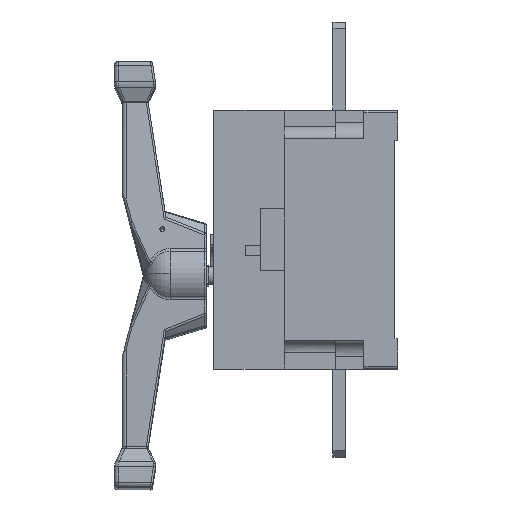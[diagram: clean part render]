
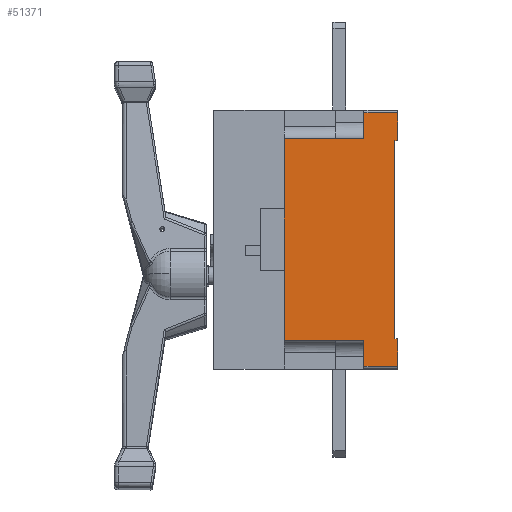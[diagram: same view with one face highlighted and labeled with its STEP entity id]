
A CAD part, left-side view. The second image highlights one B-rep face of the part: STEP entity #51371.
In plain terms, the highlighted planar face has unit normal (-1, 0, 0).
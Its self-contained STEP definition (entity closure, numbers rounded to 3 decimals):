
#843 = DIRECTION ( 'NONE',  ( 1., 0., 0. ) ) ;
#995 = DIRECTION ( 'NONE',  ( 0., 1., 0. ) ) ;
#1050 = LINE ( 'NONE', #15977, #7411 ) ;
#1329 = LINE ( 'NONE', #21159, #49910 ) ;
#2612 = CARTESIAN_POINT ( 'NONE',  ( -246.5, 46., 78. ) ) ;
#2715 = CARTESIAN_POINT ( 'NONE',  ( -246.5, -2., 98. ) ) ;
#3157 = DIRECTION ( 'NONE',  ( 0., 0., -1. ) ) ;
#3804 = CARTESIAN_POINT ( 'NONE',  ( -246.5, -2., 100. ) ) ;
#4415 = CARTESIAN_POINT ( 'NONE',  ( -246.5, 0., 76.5 ) ) ;
#4533 = LINE ( 'NONE', #58755, #9046 ) ;
#4962 = VECTOR ( 'NONE', #42832, 1000. ) ;
#5003 = ORIENTED_EDGE ( 'NONE', *, *, #33485, .T. ) ;
#6173 = VERTEX_POINT ( 'NONE', #64048 ) ;
#6449 = VECTOR ( 'NONE', #23094, 1000. ) ;
#6484 = DIRECTION ( 'NONE',  ( 0., 0., 1. ) ) ;
#7128 = CARTESIAN_POINT ( 'NONE',  ( -246.5, 85.5, -100. ) ) ;
#7411 = VECTOR ( 'NONE', #25104, 1000. ) ;
#7813 = CARTESIAN_POINT ( 'NONE',  ( -246.5, 24., 78.3 ) ) ;
#7830 = CARTESIAN_POINT ( 'NONE',  ( -246.5, -2., -76.5 ) ) ;
#9046 = VECTOR ( 'NONE', #13970, 1000. ) ;
#10089 = LINE ( 'NONE', #44842, #29986 ) ;
#10208 = ORIENTED_EDGE ( 'NONE', *, *, #58534, .F. ) ;
#10784 = ORIENTED_EDGE ( 'NONE', *, *, #47945, .T. ) ;
#11878 = VERTEX_POINT ( 'NONE', #38295 ) ;
#12287 = EDGE_CURVE ( 'NONE', #18549, #48576, #62236, .T. ) ;
#12348 = VERTEX_POINT ( 'NONE', #4415 ) ;
#12698 = EDGE_CURVE ( 'NONE', #53659, #61783, #35100, .T. ) ;
#13970 = DIRECTION ( 'NONE',  ( 0., 0., 1. ) ) ;
#14929 = CARTESIAN_POINT ( 'NONE',  ( -246.5, 46., 78.3 ) ) ;
#15232 = CARTESIAN_POINT ( 'NONE',  ( -246.5, 85.5, 78. ) ) ;
#15977 = CARTESIAN_POINT ( 'NONE',  ( -246.5, 46., -78. ) ) ;
#17671 = DIRECTION ( 'NONE',  ( 0., 0., 1. ) ) ;
#17892 = CARTESIAN_POINT ( 'NONE',  ( -246.5, 46., 78. ) ) ;
#18549 = VERTEX_POINT ( 'NONE', #7830 ) ;
#21159 = CARTESIAN_POINT ( 'NONE',  ( -246.5, -2., 76.5 ) ) ;
#22476 = EDGE_LOOP ( 'NONE', ( #57555, #30240, #51619, #50965, #23243, #29082, #63635, #34277, #43693, #45929, #10208, #42929, #5003, #26833, #10784, #57953 ) ) ;
#22780 = LINE ( 'NONE', #7813, #6449 ) ;
#22891 = CARTESIAN_POINT ( 'NONE',  ( -246.5, 24., -98. ) ) ;
#23016 = LINE ( 'NONE', #52537, #29897 ) ;
#23094 = DIRECTION ( 'NONE',  ( 0., 1., 0. ) ) ;
#23243 = ORIENTED_EDGE ( 'NONE', *, *, #12698, .F. ) ;
#24711 = DIRECTION ( 'NONE',  ( 0., 1., 0. ) ) ;
#24826 = VERTEX_POINT ( 'NONE', #22891 ) ;
#24934 = EDGE_CURVE ( 'NONE', #24826, #53659, #31040, .T. ) ;
#25104 = DIRECTION ( 'NONE',  ( 0., 1., 0. ) ) ;
#26813 = CARTESIAN_POINT ( 'NONE',  ( -246.5, 24., -100. ) ) ;
#26833 = ORIENTED_EDGE ( 'NONE', *, *, #27128, .F. ) ;
#27128 = EDGE_CURVE ( 'NONE', #56192, #52556, #40567, .T. ) ;
#27295 = EDGE_CURVE ( 'NONE', #28931, #11878, #48301, .T. ) ;
#27646 = LINE ( 'NONE', #17892, #45911 ) ;
#27953 = VERTEX_POINT ( 'NONE', #2612 ) ;
#28019 = VECTOR ( 'NONE', #57077, 1000. ) ;
#28931 = VERTEX_POINT ( 'NONE', #2715 ) ;
#29082 = ORIENTED_EDGE ( 'NONE', *, *, #24934, .F. ) ;
#29231 = EDGE_CURVE ( 'NONE', #34339, #56595, #1050, .T. ) ;
#29586 = VECTOR ( 'NONE', #3157, 1000. ) ;
#29667 = AXIS2_PLACEMENT_3D ( 'NONE', #40482, #843, #59917 ) ;
#29897 = VECTOR ( 'NONE', #53498, 1000. ) ;
#29986 = VECTOR ( 'NONE', #54249, 1000. ) ;
#30240 = ORIENTED_EDGE ( 'NONE', *, *, #30879, .F. ) ;
#30879 = EDGE_CURVE ( 'NONE', #56595, #59943, #50976, .T. ) ;
#31040 = LINE ( 'NONE', #26813, #61526 ) ;
#31334 = LINE ( 'NONE', #37138, #50287 ) ;
#33395 = CARTESIAN_POINT ( 'NONE',  ( -246.5, -2., -98. ) ) ;
#33485 = EDGE_CURVE ( 'NONE', #28931, #52556, #47381, .T. ) ;
#34277 = ORIENTED_EDGE ( 'NONE', *, *, #12287, .F. ) ;
#34339 = VERTEX_POINT ( 'NONE', #44839 ) ;
#34455 = CARTESIAN_POINT ( 'NONE',  ( -246.5, 46., -78.3 ) ) ;
#35100 = LINE ( 'NONE', #54903, #60697 ) ;
#36236 = CARTESIAN_POINT ( 'NONE',  ( -246.5, 24., 98. ) ) ;
#36533 = DIRECTION ( 'NONE',  ( 0., 0., 1. ) ) ;
#37138 = CARTESIAN_POINT ( 'NONE',  ( -246.5, 0., -100. ) ) ;
#38295 = CARTESIAN_POINT ( 'NONE',  ( -246.5, -2., 76.5 ) ) ;
#38492 = EDGE_CURVE ( 'NONE', #27953, #49393, #4533, .T. ) ;
#39651 = CARTESIAN_POINT ( 'NONE',  ( -246.5, -2., -76.5 ) ) ;
#40148 = FACE_OUTER_BOUND ( 'NONE', #22476, .T. ) ;
#40427 = VECTOR ( 'NONE', #61300, 1000. ) ;
#40482 = CARTESIAN_POINT ( 'NONE',  ( -246.5, 85.5, -100. ) ) ;
#40567 = LINE ( 'NONE', #56118, #40427 ) ;
#42619 = EDGE_CURVE ( 'NONE', #61783, #34339, #10089, .T. ) ;
#42832 = DIRECTION ( 'NONE',  ( 0., 1., 0. ) ) ;
#42929 = ORIENTED_EDGE ( 'NONE', *, *, #27295, .F. ) ;
#43693 = ORIENTED_EDGE ( 'NONE', *, *, #61749, .T. ) ;
#44470 = CARTESIAN_POINT ( 'NONE',  ( -246.5, 24., -78.3 ) ) ;
#44839 = CARTESIAN_POINT ( 'NONE',  ( -246.5, 46., -78. ) ) ;
#44842 = CARTESIAN_POINT ( 'NONE',  ( -246.5, 46., -100. ) ) ;
#45911 = VECTOR ( 'NONE', #47443, 1000. ) ;
#45929 = ORIENTED_EDGE ( 'NONE', *, *, #49246, .T. ) ;
#47381 = LINE ( 'NONE', #48023, #4962 ) ;
#47443 = DIRECTION ( 'NONE',  ( 0., 1., 0. ) ) ;
#47945 = EDGE_CURVE ( 'NONE', #56192, #49393, #22780, .T. ) ;
#47974 = EDGE_CURVE ( 'NONE', #27953, #59943, #27646, .T. ) ;
#48023 = CARTESIAN_POINT ( 'NONE',  ( -246.5, 46., 98. ) ) ;
#48301 = LINE ( 'NONE', #3804, #28019 ) ;
#48576 = VERTEX_POINT ( 'NONE', #33395 ) ;
#49246 = EDGE_CURVE ( 'NONE', #6173, #12348, #31334, .T. ) ;
#49259 = DIRECTION ( 'NONE',  ( 0., 1., 0. ) ) ;
#49393 = VERTEX_POINT ( 'NONE', #14929 ) ;
#49910 = VECTOR ( 'NONE', #49259, 1000. ) ;
#50019 = LINE ( 'NONE', #39651, #58088 ) ;
#50287 = VECTOR ( 'NONE', #17671, 1000. ) ;
#50965 = ORIENTED_EDGE ( 'NONE', *, *, #42619, .F. ) ;
#50976 = LINE ( 'NONE', #7128, #61809 ) ;
#51371 = ADVANCED_FACE ( 'NONE', ( #40148 ), #55709, .F. ) ;
#51619 = ORIENTED_EDGE ( 'NONE', *, *, #29231, .F. ) ;
#52537 = CARTESIAN_POINT ( 'NONE',  ( -246.5, 46., -98. ) ) ;
#52556 = VERTEX_POINT ( 'NONE', #36236 ) ;
#52913 = CARTESIAN_POINT ( 'NONE',  ( -246.5, 24., 78.3 ) ) ;
#53150 = CARTESIAN_POINT ( 'NONE',  ( -246.5, 85.5, -78. ) ) ;
#53498 = DIRECTION ( 'NONE',  ( 0., -1., 0. ) ) ;
#53659 = VERTEX_POINT ( 'NONE', #44470 ) ;
#53853 = EDGE_CURVE ( 'NONE', #24826, #48576, #23016, .T. ) ;
#54249 = DIRECTION ( 'NONE',  ( 0., 0., 1. ) ) ;
#54903 = CARTESIAN_POINT ( 'NONE',  ( -246.5, 24., -78.3 ) ) ;
#55709 = PLANE ( 'NONE',  #29667 ) ;
#56118 = CARTESIAN_POINT ( 'NONE',  ( -246.5, 24., 100. ) ) ;
#56192 = VERTEX_POINT ( 'NONE', #52913 ) ;
#56595 = VERTEX_POINT ( 'NONE', #53150 ) ;
#57077 = DIRECTION ( 'NONE',  ( 0., 0., -1. ) ) ;
#57555 = ORIENTED_EDGE ( 'NONE', *, *, #47974, .T. ) ;
#57953 = ORIENTED_EDGE ( 'NONE', *, *, #38492, .F. ) ;
#58088 = VECTOR ( 'NONE', #24711, 1000. ) ;
#58534 = EDGE_CURVE ( 'NONE', #11878, #12348, #1329, .T. ) ;
#58755 = CARTESIAN_POINT ( 'NONE',  ( -246.5, 46., -100. ) ) ;
#59917 = DIRECTION ( 'NONE',  ( 0., 0., -1. ) ) ;
#59943 = VERTEX_POINT ( 'NONE', #15232 ) ;
#60697 = VECTOR ( 'NONE', #995, 1000. ) ;
#61300 = DIRECTION ( 'NONE',  ( 0., 0., 1. ) ) ;
#61526 = VECTOR ( 'NONE', #36533, 1000. ) ;
#61749 = EDGE_CURVE ( 'NONE', #18549, #6173, #50019, .T. ) ;
#61783 = VERTEX_POINT ( 'NONE', #34455 ) ;
#61809 = VECTOR ( 'NONE', #6484, 1000. ) ;
#62236 = LINE ( 'NONE', #62862, #29586 ) ;
#62862 = CARTESIAN_POINT ( 'NONE',  ( -246.5, -2., -100. ) ) ;
#63635 = ORIENTED_EDGE ( 'NONE', *, *, #53853, .T. ) ;
#64048 = CARTESIAN_POINT ( 'NONE',  ( -246.5, 0., -76.5 ) ) ;
